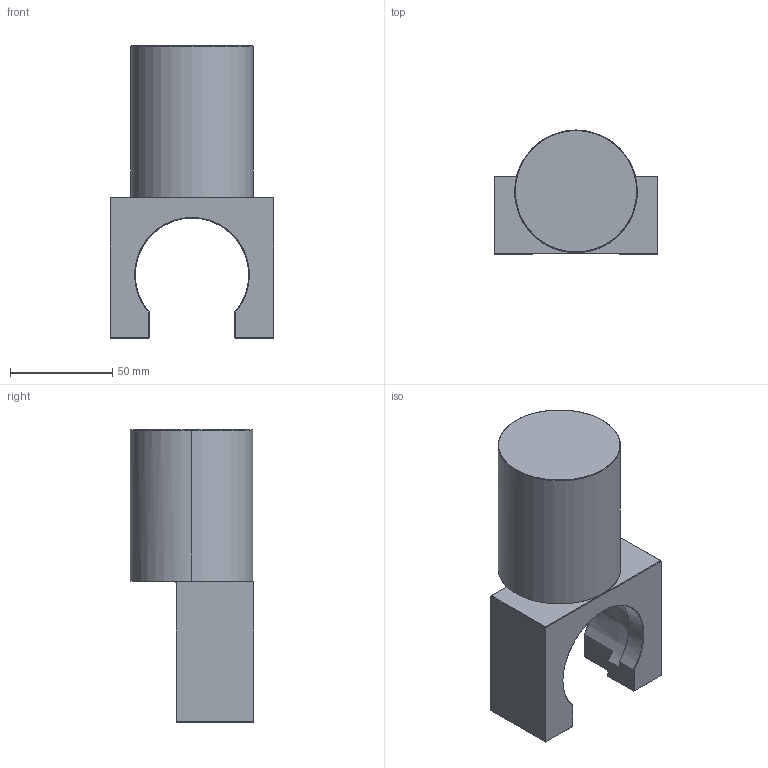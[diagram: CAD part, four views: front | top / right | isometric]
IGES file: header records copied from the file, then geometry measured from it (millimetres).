
Start section: SolidWorks IGES file using analytic representation for surfaces
Global section: file name: R:\Inventor\Kundmodeller Solidworks\Fästen\Swivel bracket BE33 041J004328.IGS; native system: SolidWorks 2008; preprocessor: SolidWorks 2008; author: Johan; date: 091015.081546; units: millimetre
Bounding box: 80 x 60.5 x 143 mm (x, y, z)
Surface area: 36961.5 mm2 (no closed solid volume)
Topology: 0 solids, 0 shells, 52 faces, 514 edges, 514 vertices
Faces by surface type: bspline 39, revolution 13
